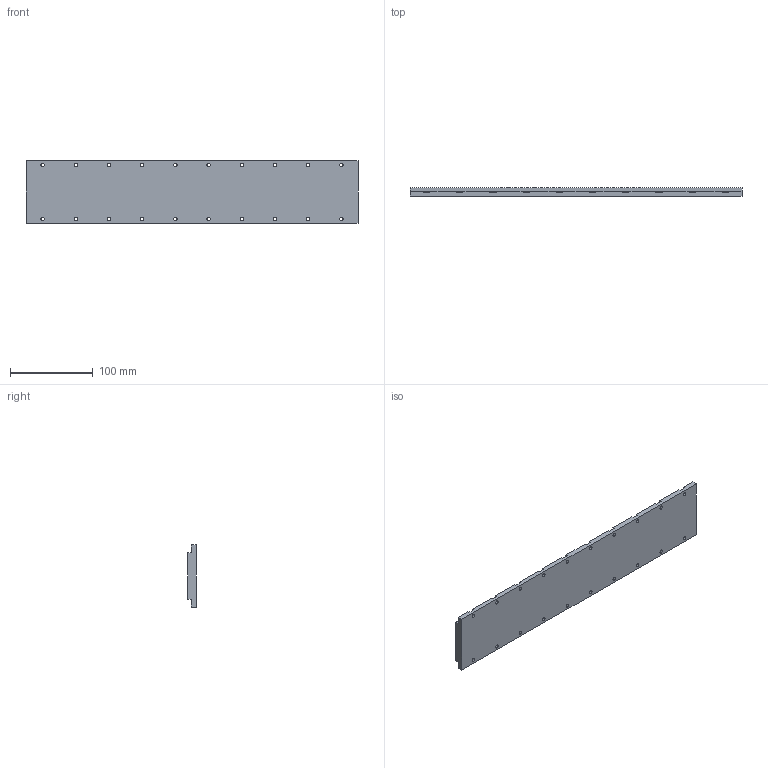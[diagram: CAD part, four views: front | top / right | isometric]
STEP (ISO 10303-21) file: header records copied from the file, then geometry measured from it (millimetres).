
FILE_DESCRIPTION (( 'STEP AP214' ), '1' );
FILE_NAME ('1-MJM050-L400.STEP', '2025-09-05T09:27:35', ( '' ), ( '' ), 'SwSTEP 2.0', 'SolidWorks 2016', '' );
FILE_SCHEMA (( 'AUTOMOTIVE_DESIGN' ));
Length unit declared in the file: millimetre
Products named in the file (1): 1-MJM050-L400
Bounding box: 400 x 10.3 x 75 mm (x, y, z)
Volume: 273462.7 mm3; surface area: 70696.1 mm2
Topology: 1 solids, 1 shells, 140 faces, 414 edges, 276 vertices
Faces by surface type: cylinder 70, plane 70
Entity records: 4832 total; most frequent: DIRECTION 836, CARTESIAN_POINT 831, ORIENTED_EDGE 828, EDGE_CURVE 414, AXIS2_PLACEMENT_3D 281, VERTEX_POINT 276, LINE 274, VECTOR 274
